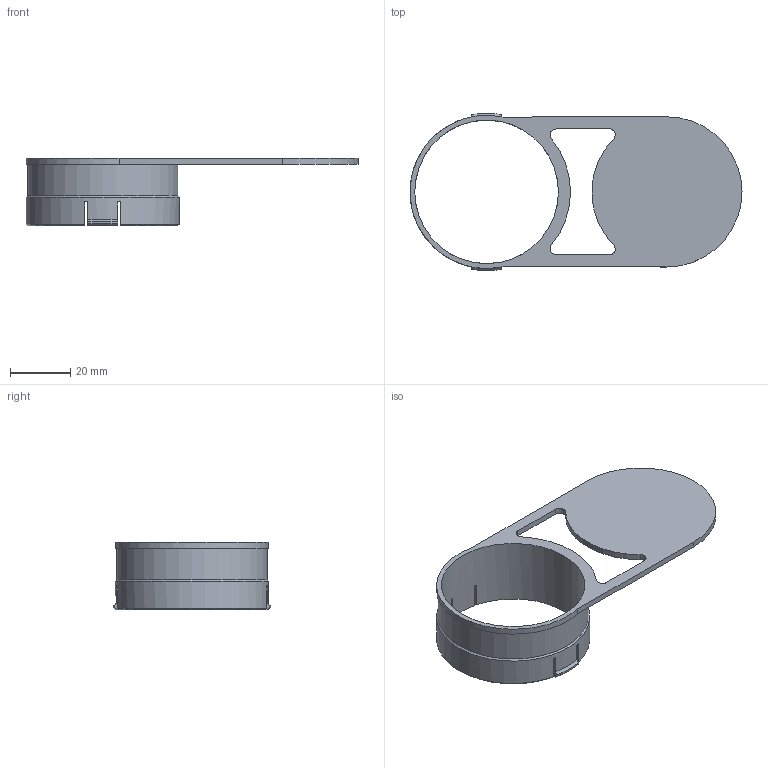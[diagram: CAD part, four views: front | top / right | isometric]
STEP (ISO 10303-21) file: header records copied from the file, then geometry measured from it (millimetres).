
FILE_DESCRIPTION(/* description */ ('Alibre Inc.'),/* implementation_level */ '2;1');
FILE_NAME(/* name */ 'export-D9240EE7-4A6B-480D-927F-2A2115609ACB',/* time_stamp */ '2026-01-22T15:39:23+00:00',/* author */ (''),/* organization */ (''),/* preprocessor_version */ 'ST-DEVELOPER v17',/* originating_system */ 'Alibre',/* authorisation */ '');
FILE_SCHEMA (('CONFIG_CONTROL_DESIGN'));
Length unit declared in the file: millimetre
Bounding box: 110.5 x 52.39 x 22.6 mm (x, y, z)
Volume: 9548.4 mm3; surface area: 12941.9 mm2
Topology: 1 solids, 1 shells, 42 faces, 118 edges, 78 vertices
Faces by surface type: plane 22, cylinder 13, cone 7
Full cylindrical faces by diameter (mm): 47.8 x1, 50 x1, 51 x1
Entity records: 1359 total; most frequent: CARTESIAN_POINT 247, ORIENTED_EDGE 224, DIRECTION 195, EDGE_CURVE 112, AXIS2_PLACEMENT_3D 79, VERTEX_POINT 76, VECTOR 56, LINE 56
